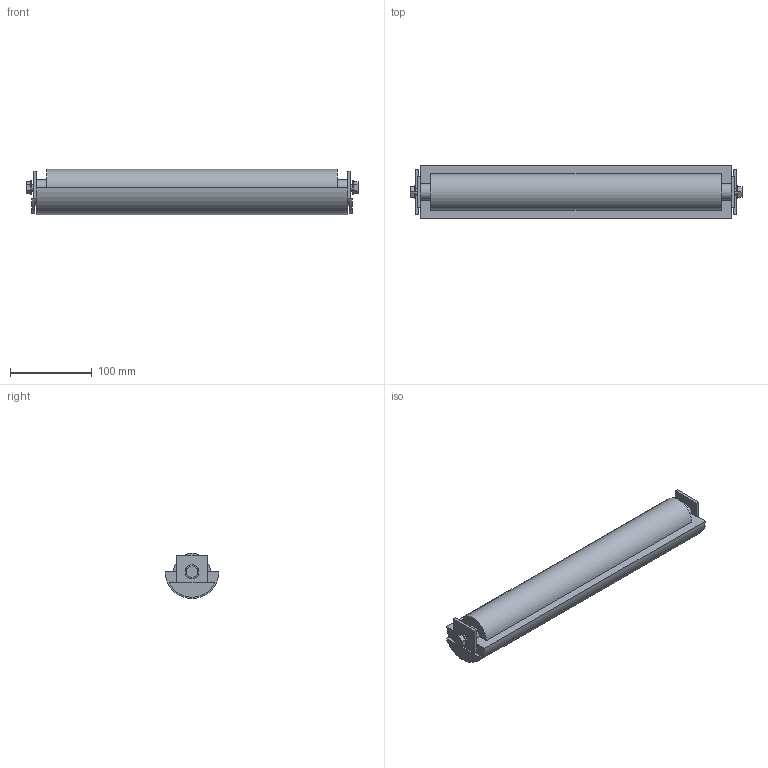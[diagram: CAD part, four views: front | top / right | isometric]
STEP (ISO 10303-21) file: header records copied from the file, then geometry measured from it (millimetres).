
FILE_DESCRIPTION (( 'STEP AP214' ), '1' );
FILE_NAME ('03.102I01.390.N FS-390-MTS2-100.INOX Idler section.STEP', '2025-02-11T11:26:27', ( '' ), ( '' ), 'SwSTEP 2.0', 'SolidWorks 2024', '' );
FILE_SCHEMA (( 'AUTOMOTIVE_DESIGN' ));
Length unit declared in the file: millimetre
Products named in the file (1): 03.102I01.390.N FS-390-MTS2-100.INOX Idler section
Bounding box: 405.8 x 65.4 x 55.2 mm (x, y, z)
Volume: 943548.9 mm3; surface area: 85883.6 mm2
Topology: 1 solids, 1 shells, 64 faces, 164 edges, 108 vertices
Faces by surface type: plane 40, cylinder 24
Entity records: 1967 total; most frequent: DIRECTION 342, CARTESIAN_POINT 337, ORIENTED_EDGE 328, EDGE_CURVE 164, LINE 116, VECTOR 116, AXIS2_PLACEMENT_3D 113, VERTEX_POINT 108
